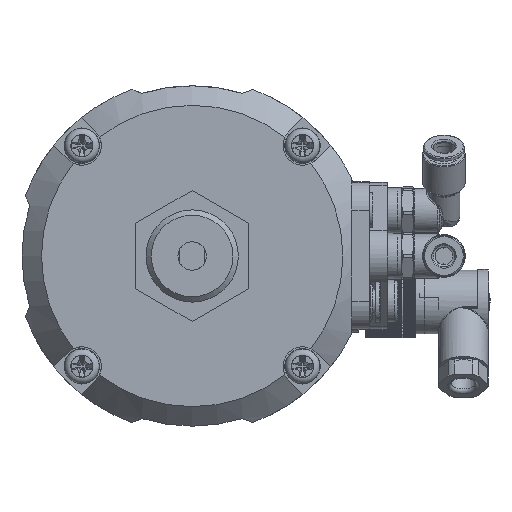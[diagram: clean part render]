
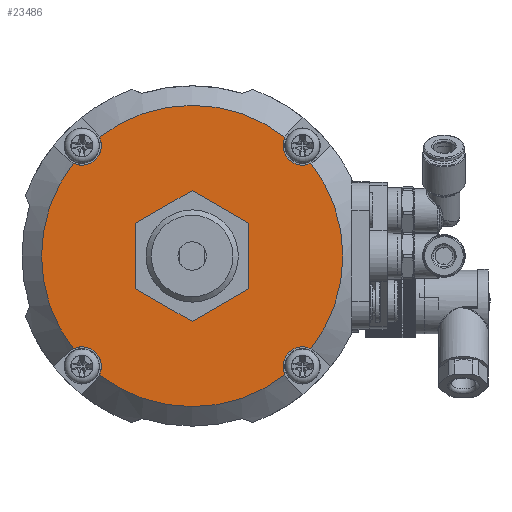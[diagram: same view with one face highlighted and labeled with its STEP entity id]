
A CAD part, front view. The second image highlights one B-rep face of the part: STEP entity #23486.
In plain terms, the highlighted planar face has unit normal (0, -1, 0).
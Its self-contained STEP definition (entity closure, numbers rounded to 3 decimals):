
#23486=ADVANCED_FACE('',(#48153,#48155),#48157,.T.);
#48153=FACE_BOUND('',#48154,.T.);
#48154=EDGE_LOOP('',(#68355,#68356,#68357,#68358,#68359,#68360,#68361,#68362));
#48155=FACE_BOUND('',#48156,.T.);
#48156=EDGE_LOOP('',(#68363,#68364,#68365,#68366,#68367,#68368));
#48157=PLANE('',#48158);
#48158=AXIS2_PLACEMENT_3D('',#48159,#48160,#48161);
#48159=CARTESIAN_POINT('',(0.,-139.,0.));
#48160=DIRECTION('',(0.,-1.,0.));
#48161=DIRECTION('',(0.,0.,1.));
#68355=ORIENTED_EDGE('',*,*,#78570,.T.);
#68356=ORIENTED_EDGE('',*,*,#78571,.T.);
#68357=ORIENTED_EDGE('',*,*,#78572,.T.);
#68358=ORIENTED_EDGE('',*,*,#78492,.T.);
#68359=ORIENTED_EDGE('',*,*,#78568,.T.);
#68360=ORIENTED_EDGE('',*,*,#78561,.T.);
#68361=ORIENTED_EDGE('',*,*,#78573,.T.);
#68362=ORIENTED_EDGE('',*,*,#78574,.T.);
#68363=ORIENTED_EDGE('',*,*,#78575,.F.);
#68364=ORIENTED_EDGE('',*,*,#78576,.F.);
#68365=ORIENTED_EDGE('',*,*,#78577,.F.);
#68366=ORIENTED_EDGE('',*,*,#78578,.F.);
#68367=ORIENTED_EDGE('',*,*,#78579,.F.);
#68368=ORIENTED_EDGE('',*,*,#78580,.F.);
#78492=EDGE_CURVE('',#92200,#92198,#92201,.F.);
#78561=EDGE_CURVE('',#92320,#92318,#92321,.F.);
#78568=EDGE_CURVE('',#92198,#92320,#92331,.F.);
#78570=EDGE_CURVE('',#92333,#92334,#92335,.F.);
#78571=EDGE_CURVE('',#92334,#92336,#92337,.F.);
#78572=EDGE_CURVE('',#92336,#92200,#92338,.F.);
#78573=EDGE_CURVE('',#92318,#92339,#92340,.F.);
#78574=EDGE_CURVE('',#92339,#92333,#92341,.F.);
#78575=EDGE_CURVE('',#92342,#92343,#92344,.T.);
#78576=EDGE_CURVE('',#92345,#92342,#92346,.T.);
#78577=EDGE_CURVE('',#92347,#92345,#92348,.T.);
#78578=EDGE_CURVE('',#92349,#92347,#92350,.T.);
#78579=EDGE_CURVE('',#92351,#92349,#92352,.T.);
#78580=EDGE_CURVE('',#92343,#92351,#92353,.T.);
#92198=VERTEX_POINT('',#142883);
#92200=VERTEX_POINT('',#142903);
#92201=CIRCLE('',#142904,42.5);
#92318=VERTEX_POINT('',#143269);
#92320=VERTEX_POINT('',#143289);
#92321=CIRCLE('',#143290,42.5);
#92331=CIRCLE('',#143335,5.5);
#92333=VERTEX_POINT('',#143342);
#92334=VERTEX_POINT('',#143343);
#92335=CIRCLE('',#143344,5.5);
#92336=VERTEX_POINT('',#143348);
#92337=CIRCLE('',#143349,42.5);
#92338=CIRCLE('',#143353,5.5);
#92339=VERTEX_POINT('',#143357);
#92340=CIRCLE('',#143358,5.5);
#92341=CIRCLE('',#143362,42.5);
#92342=VERTEX_POINT('',#143366);
#92343=VERTEX_POINT('',#143367);
#92344=LINE('',#143368,#143369);
#92345=VERTEX_POINT('',#143371);
#92346=LINE('',#143372,#143373);
#92347=VERTEX_POINT('',#143375);
#92348=LINE('',#143376,#143377);
#92349=VERTEX_POINT('',#143379);
#92350=LINE('',#143380,#143381);
#92351=VERTEX_POINT('',#143383);
#92352=LINE('',#143384,#143385);
#92353=LINE('',#143387,#143388);
#142883=CARTESIAN_POINT('',(33.497,-139.,26.157));
#142903=CARTESIAN_POINT('',(33.497,-139.,-26.157));
#142904=AXIS2_PLACEMENT_3D('',#142905,#142906,#142907);
#142905=CARTESIAN_POINT('',(0.,-139.,0.));
#142906=DIRECTION('',(0.,1.,0.));
#142907=DIRECTION('',(0.788,0.,0.615));
#143269=CARTESIAN_POINT('',(-26.157,-139.,33.497));
#143289=CARTESIAN_POINT('',(26.157,-139.,33.497));
#143290=AXIS2_PLACEMENT_3D('',#143291,#143292,#143293);
#143291=CARTESIAN_POINT('',(0.,-139.,0.));
#143292=DIRECTION('',(0.,1.,0.));
#143293=DIRECTION('',(-0.615,0.,0.788));
#143335=AXIS2_PLACEMENT_3D('',#143336,#143337,#143338);
#143336=CARTESIAN_POINT('',(31.113,-139.,31.113));
#143337=DIRECTION('',(0.,-1.,0.));
#143338=DIRECTION('',(-0.901,0.,0.434));
#143342=CARTESIAN_POINT('',(-33.497,-139.,-26.157));
#143343=CARTESIAN_POINT('',(-26.157,-139.,-33.497));
#143344=AXIS2_PLACEMENT_3D('',#143345,#143346,#143347);
#143345=CARTESIAN_POINT('',(-31.113,-139.,-31.113));
#143346=DIRECTION('',(0.,-1.,0.));
#143347=DIRECTION('',(0.901,0.,-0.434));
#143348=CARTESIAN_POINT('',(26.157,-139.,-33.497));
#143349=AXIS2_PLACEMENT_3D('',#143350,#143351,#143352);
#143350=CARTESIAN_POINT('',(0.,-139.,0.));
#143351=DIRECTION('',(0.,1.,0.));
#143352=DIRECTION('',(0.615,0.,-0.788));
#143353=AXIS2_PLACEMENT_3D('',#143354,#143355,#143356);
#143354=CARTESIAN_POINT('',(31.113,-139.,-31.113));
#143355=DIRECTION('',(0.,-1.,0.));
#143356=DIRECTION('',(0.434,0.,0.901));
#143357=CARTESIAN_POINT('',(-33.497,-139.,26.157));
#143358=AXIS2_PLACEMENT_3D('',#143359,#143360,#143361);
#143359=CARTESIAN_POINT('',(-31.113,-139.,31.113));
#143360=DIRECTION('',(0.,-1.,0.));
#143361=DIRECTION('',(-0.434,0.,-0.901));
#143362=AXIS2_PLACEMENT_3D('',#143363,#143364,#143365);
#143363=CARTESIAN_POINT('',(0.,-139.,0.));
#143364=DIRECTION('',(0.,1.,0.));
#143365=DIRECTION('',(-0.788,0.,-0.615));
#143366=CARTESIAN_POINT('',(0.,-139.,-18.475));
#143367=CARTESIAN_POINT('',(16.,-139.,-9.238));
#143368=CARTESIAN_POINT('',(0.,-139.,-18.475));
#143369=VECTOR('',#143370,1.);
#143370=DIRECTION('',(0.866,0.,0.5));
#143371=CARTESIAN_POINT('',(-16.,-139.,-9.238));
#143372=CARTESIAN_POINT('',(-16.,-139.,-9.238));
#143373=VECTOR('',#143374,1.);
#143374=DIRECTION('',(0.866,0.,-0.5));
#143375=CARTESIAN_POINT('',(-16.,-139.,9.238));
#143376=CARTESIAN_POINT('',(-16.,-139.,9.238));
#143377=VECTOR('',#143378,1.);
#143378=DIRECTION('',(0.,0.,-1.));
#143379=CARTESIAN_POINT('',(0.,-139.,18.475));
#143380=CARTESIAN_POINT('',(0.,-139.,18.475));
#143381=VECTOR('',#143382,1.);
#143382=DIRECTION('',(-0.866,0.,-0.5));
#143383=CARTESIAN_POINT('',(16.,-139.,9.238));
#143384=CARTESIAN_POINT('',(16.,-139.,9.238));
#143385=VECTOR('',#143386,1.);
#143386=DIRECTION('',(-0.866,0.,0.5));
#143387=CARTESIAN_POINT('',(16.,-139.,-9.238));
#143388=VECTOR('',#143389,1.);
#143389=DIRECTION('',(0.,0.,1.));
